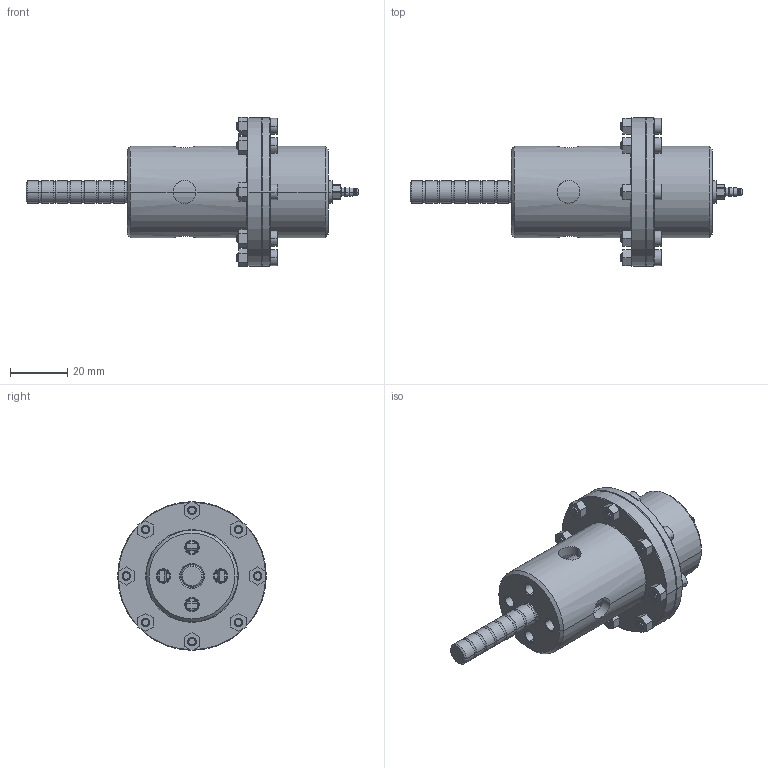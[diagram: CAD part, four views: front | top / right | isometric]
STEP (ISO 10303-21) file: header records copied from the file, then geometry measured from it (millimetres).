
FILE_DESCRIPTION((''),'2;1');
FILE_NAME('3103185_ASM','2021-11-30T10:56:51',('MMSFLEB'),(''),'CREO PARAMETRIC BY PTC INC, 2020342','CREO PARAMETRIC BY PTC INC, 2020342','');
FILE_SCHEMA(('CONFIG_CONTROL_DESIGN','SHAPE_APPEARANCE_LAYERS_GROUPS'));
Length unit declared in the file: millimetre
Products named in the file (10): 3103186; 3103180; 3106134; 3103181; 3212350; 3140261; 3140250; 2981774; 2981754; 3103185_ASM
Assembly tree (23 placements, depth 2):
  3103185_ASM
    3103186
    3103180
    3106134
    3103181
    3212350  x8
    3140261  x8
    3140250
    2981774
    2981754
Bounding box: 116.2 x 52 x 52.35 mm (x, y, z)
Volume: 46777.2 mm3; surface area: 31638.9 mm2
Topology: 23 solids, 53 shells, 647 faces, 1534 edges, 967 vertices
Faces by surface type: cylinder 340, plane 151, cone 92, torus 60, bspline 4
Entity records: 16118 total; most frequent: CARTESIAN_POINT 2538, DIRECTION 2262, ORIENTED_EDGE 1716, AXIS2_PLACEMENT_3D 973, PRESENTATION_STYLE_ASSIGNMENT 923, STYLED_ITEM 923, EDGE_CURVE 894, CURVE_STYLE 646
